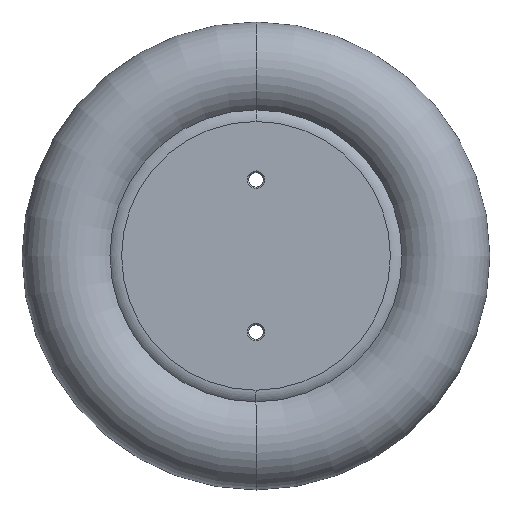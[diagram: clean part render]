
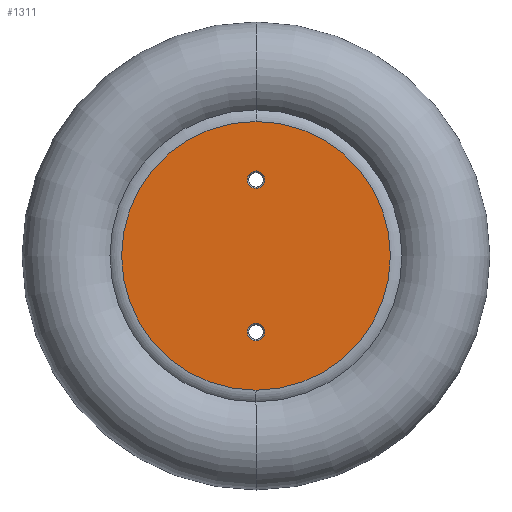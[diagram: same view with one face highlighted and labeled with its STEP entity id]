
A CAD part, top view. The second image highlights one B-rep face of the part: STEP entity #1311.
In plain terms, the highlighted planar face has unit normal (0, 0, 1).
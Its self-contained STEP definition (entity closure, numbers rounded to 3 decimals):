
#395=CARTESIAN_POINT('',(0.,0.,37.5));
#396=DIRECTION('',(0.,0.,1.));
#397=DIRECTION('',(0.,1.,0.));
#398=AXIS2_PLACEMENT_3D('',#395,#396,#397);
#403=CARTESIAN_POINT('',(0.,0.,37.5));
#404=DIRECTION('',(0.,0.,-1.));
#405=DIRECTION('',(0.,1.,0.));
#406=AXIS2_PLACEMENT_3D('',#403,#404,#405);
#411=CARTESIAN_POINT('',(0.,35.,37.5));
#412=DIRECTION('',(0.,0.,-1.));
#413=DIRECTION('',(-1.,0.,0.));
#414=AXIS2_PLACEMENT_3D('',#411,#412,#413);
#419=CARTESIAN_POINT('',(0.,35.,37.5));
#420=DIRECTION('',(0.,0.,-1.));
#421=DIRECTION('',(1.,0.,0.));
#422=AXIS2_PLACEMENT_3D('',#419,#420,#421);
#427=CARTESIAN_POINT('',(0.,-35.,37.5));
#428=DIRECTION('',(0.,0.,-1.));
#429=DIRECTION('',(-1.,0.,0.));
#430=AXIS2_PLACEMENT_3D('',#427,#428,#429);
#435=CARTESIAN_POINT('',(0.,-35.,37.5));
#436=DIRECTION('',(0.,0.,-1.));
#437=DIRECTION('',(1.,0.,0.));
#438=AXIS2_PLACEMENT_3D('',#435,#436,#437);
#634=CARTESIAN_POINT('',(0.,61.75,37.5));
#635=CARTESIAN_POINT('',(0.,-61.75,37.5));
#636=VERTEX_POINT('',#634);
#637=VERTEX_POINT('',#635);
#658=CARTESIAN_POINT('',(-4.,35.,37.5));
#659=CARTESIAN_POINT('',(4.,35.,37.5));
#660=VERTEX_POINT('',#658);
#661=VERTEX_POINT('',#659);
#666=CARTESIAN_POINT('',(-4.,-35.,37.5));
#667=CARTESIAN_POINT('',(4.,-35.,37.5));
#668=VERTEX_POINT('',#666);
#669=VERTEX_POINT('',#667);
#1289=CARTESIAN_POINT('',(0.,0.,37.5));
#1290=DIRECTION('',(0.,0.,-1.));
#1291=DIRECTION('',(0.,-1.,0.));
#1292=AXIS2_PLACEMENT_3D('',#1289,#1290,#1291);
#1293=PLANE('',#1292);
#1295=ORIENTED_EDGE('',*,*,#1294,.F.);
#1297=ORIENTED_EDGE('',*,*,#1296,.T.);
#1298=EDGE_LOOP('',(#1295,#1297));
#1299=FACE_OUTER_BOUND('',#1298,.F.);
#1301=ORIENTED_EDGE('',*,*,#1300,.F.);
#1303=ORIENTED_EDGE('',*,*,#1302,.F.);
#1304=EDGE_LOOP('',(#1301,#1303));
#1305=FACE_BOUND('',#1304,.F.);
#1307=ORIENTED_EDGE('',*,*,#1306,.F.);
#1308=ORIENTED_EDGE('',*,*,#1267,.F.);
#1309=EDGE_LOOP('',(#1307,#1308));
#1310=FACE_BOUND('',#1309,.F.);
#1311=ADVANCED_FACE('',(#1299,#1305,#1310),#1293,.F.);
#399=CIRCLE('',#398,61.75);
#407=CIRCLE('',#406,61.75);
#415=CIRCLE('',#414,4.);
#423=CIRCLE('',#422,4.);
#431=CIRCLE('',#430,4.);
#439=CIRCLE('',#438,4.);
#1267=EDGE_CURVE('',#669,#668,#439,.T.);
#1294=EDGE_CURVE('',#636,#637,#399,.T.);
#1296=EDGE_CURVE('',#636,#637,#407,.T.);
#1300=EDGE_CURVE('',#660,#661,#415,.T.);
#1302=EDGE_CURVE('',#661,#660,#423,.T.);
#1306=EDGE_CURVE('',#668,#669,#431,.T.);
